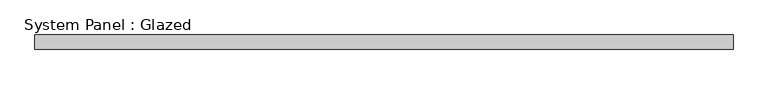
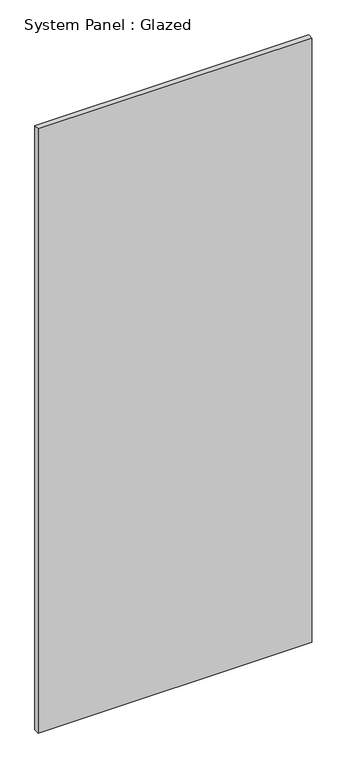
"""IFC4 building model written with IfcOpenShell, lengths in millimetres: plate geometry, System Panel : Glazed."""

import ifcopenshell
import ifcopenshell.guid

model = None  # the IFC model being written
_history = None  # IfcOwnerHistory: only IFC2X3 demands one
_inside = {}  # id of a spatial element -> (the spatial element, [elements in it])
_under = {}  # id of a project, library or spatial element -> (it, [spatial elements below it])
_declared = {}  # id of a project -> (the project, [libraries it declares])
_typed = {}  # id of a type object -> (the type object, [elements of that type])
_made_of = {}  # id of a material, layer set ... -> (it, [elements and type objects made of it])


def new_model(schema):
    """Start an empty IFC model of exactly this schema.

    Asked for "IFC4X3", IfcOpenShell would pick the latest addendum, in which some entities
    have other attributes; the version numbers below select the first issue.
    IFC2X3 requires an IfcOwnerHistory on every rooted entity: one is made here for all.
    """
    global model, _history
    if schema == "IFC4X3":
        model = ifcopenshell.file(schema_version=(4, 3, 0, 0))
    else:
        model = ifcopenshell.file(schema=schema)
    _inside.clear()
    _under.clear()
    _declared.clear()
    _typed.clear()
    _made_of.clear()
    _history = None
    if model.schema == "IFC2X3":
        org = make("IfcOrganization", Name="unknown")
        user = make(
            "IfcPersonAndOrganization",
            ThePerson=make("IfcPerson", FamilyName="unknown"),
            TheOrganization=org,
        )
        app = make(
            "IfcApplication",
            ApplicationDeveloper=org,
            Version="unknown",
            ApplicationFullName="unknown",
            ApplicationIdentifier="unknown",
        )
        _history = make(
            "IfcOwnerHistory",
            OwningUser=user,
            OwningApplication=app,
            ChangeAction="ADDED",
            CreationDate=0,
        )
    return model


def make(cls, **values):
    """One entity of the class cls with the attributes given. An attribute that is None is left unset."""
    return model.create_entity(
        cls, **{name: value for name, value in values.items() if value is not None}
    )


def rooted(cls, **values):
    """An entity with a GlobalId (a new one), such as an element, a storey or a relation."""
    return make(cls, GlobalId=ifcopenshell.guid.new(), OwnerHistory=_history, **values)


def si_unit(unit_type, name, prefix=None):
    """IfcSIUnit, for example si_unit("LENGTHUNIT", "METRE", prefix="MILLI")."""
    return make("IfcSIUnit", UnitType=unit_type, Prefix=prefix, Name=name)


def assignment(units):
    """IfcUnitAssignment: the units of a project."""
    return None if units is None else make("IfcUnitAssignment", Units=units)


def point(xyz):
    """IfcCartesianPoint."""
    return None if xyz is None else make("IfcCartesianPoint", Coordinates=xyz)


def direction(xyz):
    """IfcDirection."""
    return None if xyz is None else make("IfcDirection", DirectionRatios=xyz)


def frame(location, z_axis=None, x_axis=None):
    """IfcAxis2Placement3D, a coordinate frame: its origin and axes. An axis left out is left unset."""
    return make(
        "IfcAxis2Placement3D",
        Location=point(location),
        Axis=direction(z_axis),
        RefDirection=direction(x_axis),
    )


def origin():
    """The frame at (0, 0, 0) with its axes left unset."""
    return frame((0.0, 0.0, 0.0))


def origin_with_axes():
    """The frame at (0, 0, 0) with the z axis (0, 0, 1) and the x axis (1, 0, 0) written out."""
    return frame((0.0, 0.0, 0.0), z_axis=(0.0, 0.0, 1.0), x_axis=(1.0, 0.0, 0.0))


def place(relative_to, where):
    """IfcLocalPlacement: puts the frame where relative to a parent placement (None: the world)."""
    return make(
        "IfcLocalPlacement", PlacementRelTo=relative_to, RelativePlacement=where
    )


def context(
    kind, dimensions, precision=None, world=None, true_north=None, identifier=None
):
    """IfcGeometricRepresentationContext, for example the 3D "Model" context."""
    return make(
        "IfcGeometricRepresentationContext",
        ContextIdentifier=identifier,
        ContextType=kind,
        CoordinateSpaceDimension=dimensions,
        Precision=precision,
        WorldCoordinateSystem=world,
        TrueNorth=true_north,
    )


def project(units=None, contexts=None):
    """IfcProject with its units and contexts."""
    return rooted(
        "IfcProject",
        Name="project",
        RepresentationContexts=contexts,
        UnitsInContext=assignment(units),
    )


def spatial(cls, under=None, at=None, **own):
    """A site, building, storey or space (cls), placed at a placement, below another one or the project."""
    s = rooted(cls, ObjectPlacement=at, **own)
    if under is not None:
        _under.setdefault(under.id(), (under, []))[1].append(s)
    return s


def polyline(points):
    """IfcPolyline through the points."""
    return make("IfcPolyline", Points=[point(p) for p in points])


def outline(outer, holes=None, kind="AREA"):
    """IfcArbitraryClosedProfileDef: a profile drawn as a closed curve; with holes, ...WithVoids."""
    if holes is None:
        return make("IfcArbitraryClosedProfileDef", ProfileType=kind, OuterCurve=outer)
    return make(
        "IfcArbitraryProfileDefWithVoids",
        ProfileType=kind,
        OuterCurve=outer,
        InnerCurves=holes,
    )


def extrude(swept, where, along, depth):
    """IfcExtrudedAreaSolid: the profile swept, set in the frame where, extruded along a direction by depth."""
    return make(
        "IfcExtrudedAreaSolid",
        SweptArea=swept,
        Position=where,
        ExtrudedDirection=direction(along),
        Depth=depth,
    )


def shape(context_of_items, identifier, shape_type, items):
    """IfcShapeRepresentation: the items that make up one representation, for example the "Body"."""
    return make(
        "IfcShapeRepresentation",
        ContextOfItems=context_of_items,
        RepresentationIdentifier=identifier,
        RepresentationType=shape_type,
        Items=items,
    )


def source(mapping_origin, context_of_items, identifier, shape_type, items):
    """IfcRepresentationMap: a shape defined once, which mapped items show again and again."""
    return make(
        "IfcRepresentationMap",
        MappingOrigin=mapping_origin,
        MappedRepresentation=shape(context_of_items, identifier, shape_type, items),
    )


def transform(
    local_origin,
    x_axis=None,
    y_axis=None,
    z_axis=None,
    scale=None,
    scale2=None,
    scale3=None,
    uniform=True,
):
    """IfcCartesianTransformationOperator3D, or its non-uniform kind. x_axis, y_axis, z_axis: its Axis1, 2, 3."""
    if uniform:
        return make(
            "IfcCartesianTransformationOperator3D",
            Axis1=direction(x_axis),
            Axis2=direction(y_axis),
            LocalOrigin=point(local_origin),
            Scale=scale,
            Axis3=direction(z_axis),
        )
    return make(
        "IfcCartesianTransformationOperator3DnonUniform",
        Axis1=direction(x_axis),
        Axis2=direction(y_axis),
        LocalOrigin=point(local_origin),
        Scale=scale,
        Axis3=direction(z_axis),
        Scale2=scale2,
        Scale3=scale3,
    )


def mapped(mapping_source, mapping_target):
    """IfcMappedItem: shows the shape of a source again, moved by a transform."""
    return make(
        "IfcMappedItem", MappingSource=mapping_source, MappingTarget=mapping_target
    )


def made_of(thing, what):
    """Note that an element or type object is made of a material, layer set ...; save() writes the relation."""
    if what is not None:
        _made_of.setdefault(what.id(), (what, []))[1].append(thing)
    return thing


def element(
    cls,
    number,
    at=None,
    inside=None,
    cuts=None,
    type_object=None,
    material=None,
    context=None,
    identifier="Body",
    shape_type=None,
    held_by="IfcProductDefinitionShape",
    body=None,
    shapes=None,
    **own,
):
    """One element of the class cls, such as IfcWall. Its Tag is "e" and its number.

    at: its placement. inside: the storey or other place that contains it. cuts: it is an
    opening in that element (IfcRelVoidsElement). A single representation is given by context,
    identifier, shape_type and body (its items); several are given by shapes. held_by: the class
    of the entity that holds the representations. save() writes the other relations.
    """
    e = rooted(cls, Tag="e%d" % number, ObjectPlacement=at, **own)
    if body is not None:
        shapes = [shape(context, identifier, shape_type, body)]
    if shapes is not None:
        e.Representation = make(held_by, Representations=shapes)
    if inside is not None:
        _inside.setdefault(inside.id(), (inside, []))[1].append(e)
    if cuts is not None:
        rooted(
            "IfcRelVoidsElement", RelatingBuildingElement=cuts, RelatedOpeningElement=e
        )
    if type_object is not None:
        _typed.setdefault(type_object.id(), (type_object, []))[1].append(e)
    return made_of(e, material)


def aggregate(whole, parts):
    """IfcRelAggregates: a whole, such as a stair, and the parts it consists of."""
    return rooted("IfcRelAggregates", RelatingObject=whole, RelatedObjects=parts)


def save(model, path):
    """Write the relations noted so far, then the file.

    IfcRelAggregates (storeys below a building ...), IfcRelContainedInSpatialStructure (elements
    in a storey), IfcRelDefinesByType, IfcRelAssociatesMaterial and IfcRelDeclares: one each for
    every whole, place, type object, material and project.
    """
    for whole, parts in _under.values():
        aggregate(whole, parts)
    for where, things in _inside.values():
        rooted(
            "IfcRelContainedInSpatialStructure",
            RelatedElements=things,
            RelatingStructure=where,
        )
    for kind, things in _typed.values():
        rooted("IfcRelDefinesByType", RelatedObjects=things, RelatingType=kind)
    for what, things in _made_of.values():
        rooted("IfcRelAssociatesMaterial", RelatedObjects=things, RelatingMaterial=what)
    for by, libraries in _declared.values():
        rooted("IfcRelDeclares", RelatingContext=by, RelatedDefinitions=libraries)
    model.write(path)


def system_panel_glazed_a99abd63(model_context):
    return source(origin(), model_context, "Body", "SweptSolid", [
        extrude(outline(polyline([(600.0, -25.0), (-600.0, -25.0), (-600.0, 0.0), (600.0, 0.0), (600.0, -25.0)])), origin_with_axes(), (0.0, 0.0, 1.0), 2800.0),
    ])


if __name__ == "__main__":
    model = new_model("IFC4")
    model_context = context("Model", 3, world=origin())
    ifc_project = project(units=[si_unit("LENGTHUNIT", "METRE", prefix="MILLI")], contexts=[model_context])
    site = spatial("IfcSite", under=ifc_project)
    building = spatial("IfcBuilding", under=site)
    placement = place(None, origin())
    system_panel_glazed_shape = system_panel_glazed_a99abd63(model_context)
    element("IfcPlate", 1, ObjectType="System Panel : Glazed", at=placement, inside=building, context=model_context, shape_type="MappedRepresentation", body=[
        mapped(system_panel_glazed_shape, transform((0.0, 0.0, 0.0), x_axis=(1.0, 0.0, 0.0), y_axis=(0.0, 1.0, 0.0), z_axis=(0.0, 0.0, 1.0))),
    ])
    save(model, "model.ifc")
